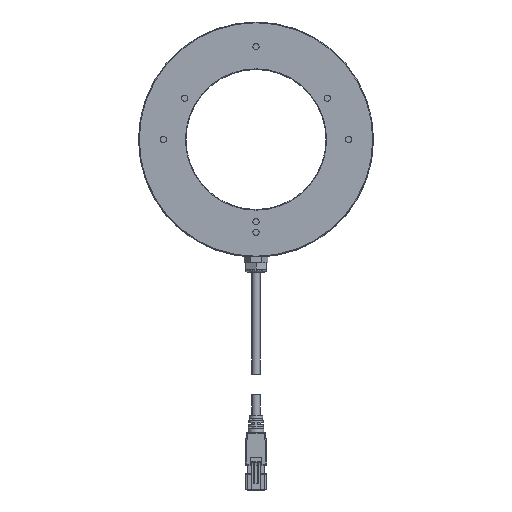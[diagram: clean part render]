
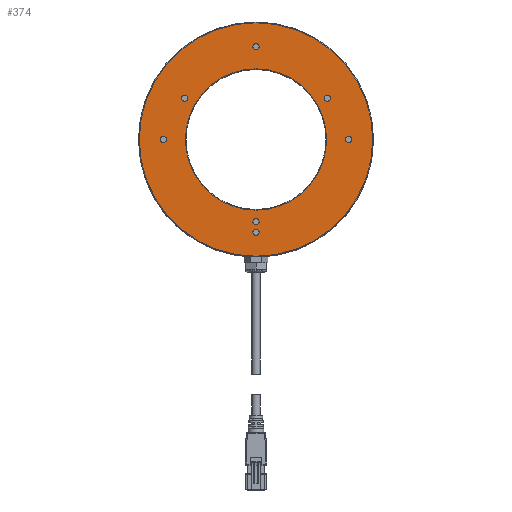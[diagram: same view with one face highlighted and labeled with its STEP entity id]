
A CAD part, top view. The second image highlights one B-rep face of the part: STEP entity #374.
In plain terms, the highlighted planar face has unit normal (0, 0, 1).
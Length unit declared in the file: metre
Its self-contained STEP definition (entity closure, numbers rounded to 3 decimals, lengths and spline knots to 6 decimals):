
#374=ADVANCED_FACE('14:558',(#1067,#1068,#1069,#1070,#1071,#1072,#1073,#1074,#1075),#1076,.T.);
#1067=FACE_BOUND('',#1987,.T.);
#1068=FACE_BOUND('',#1988,.T.);
#1069=FACE_BOUND('',#1989,.T.);
#1070=FACE_BOUND('',#1990,.T.);
#1071=FACE_BOUND('',#1991,.T.);
#1072=FACE_BOUND('',#1992,.T.);
#1073=FACE_BOUND('',#1993,.T.);
#1074=FACE_OUTER_BOUND('',#1994,.T.);
#1075=FACE_BOUND('',#1995,.T.);
#1076=PLANE('',#1996);
#1987=EDGE_LOOP('',(#5369,#5370));
#1988=EDGE_LOOP('',(#5371,#5372));
#1989=EDGE_LOOP('',(#5373,#5374));
#1990=EDGE_LOOP('',(#5375,#5376));
#1991=EDGE_LOOP('',(#5377,#5378));
#1992=EDGE_LOOP('',(#5379,#5380));
#1993=EDGE_LOOP('',(#5381,#5382));
#1994=EDGE_LOOP('',(#5383,#5384));
#1995=EDGE_LOOP('',(#5385,#5386));
#1996=AXIS2_PLACEMENT_3D('',#5387,#5388,#5389);
#5369=ORIENTED_EDGE('',*,*,#7302,.T.);
#5370=ORIENTED_EDGE('',*,*,#7196,.T.);
#5371=ORIENTED_EDGE('',*,*,#7303,.T.);
#5372=ORIENTED_EDGE('',*,*,#7192,.T.);
#5373=ORIENTED_EDGE('',*,*,#7304,.T.);
#5374=ORIENTED_EDGE('',*,*,#7188,.T.);
#5375=ORIENTED_EDGE('',*,*,#7305,.T.);
#5376=ORIENTED_EDGE('',*,*,#7184,.T.);
#5377=ORIENTED_EDGE('',*,*,#7306,.T.);
#5378=ORIENTED_EDGE('',*,*,#7180,.T.);
#5379=ORIENTED_EDGE('',*,*,#7307,.T.);
#5380=ORIENTED_EDGE('',*,*,#7176,.T.);
#5381=ORIENTED_EDGE('',*,*,#7308,.T.);
#5382=ORIENTED_EDGE('',*,*,#7172,.T.);
#5383=ORIENTED_EDGE('',*,*,#7094,.F.);
#5384=ORIENTED_EDGE('',*,*,#7398,.F.);
#5385=ORIENTED_EDGE('',*,*,#7157,.F.);
#5386=ORIENTED_EDGE('',*,*,#7321,.F.);
#5387=CARTESIAN_POINT('',(0.0,0.0,0.021));
#5388=DIRECTION('',(0.0,0.0,1.0));
#5389=DIRECTION('',(1.0,0.0,0.0));
#7094=EDGE_CURVE('14:1191',#8477,#8473,#8479,.T.);
#7157=EDGE_CURVE('14:927',#8591,#8588,#8593,.T.);
#7172=EDGE_CURVE('14:888',#8616,#8620,#8622,.T.);
#7176=EDGE_CURVE('14:885',#8624,#8628,#8630,.T.);
#7180=EDGE_CURVE('14:882',#8632,#8636,#8638,.T.);
#7184=EDGE_CURVE('14:879',#8640,#8644,#8646,.T.);
#7188=EDGE_CURVE('14:876',#8648,#8652,#8654,.T.);
#7192=EDGE_CURVE('14:873',#8656,#8660,#8662,.T.);
#7196=EDGE_CURVE('14:870',#8664,#8668,#8670,.T.);
#7302=EDGE_CURVE('14:870',#8668,#8664,#8834,.T.);
#7303=EDGE_CURVE('14:873',#8660,#8656,#8835,.T.);
#7304=EDGE_CURVE('14:876',#8652,#8648,#8836,.T.);
#7305=EDGE_CURVE('14:879',#8644,#8640,#8837,.T.);
#7306=EDGE_CURVE('14:882',#8636,#8632,#8838,.T.);
#7307=EDGE_CURVE('14:885',#8628,#8624,#8839,.T.);
#7308=EDGE_CURVE('14:888',#8620,#8616,#8840,.T.);
#7321=EDGE_CURVE('14:927',#8588,#8591,#8858,.T.);
#7398=EDGE_CURVE('14:1191',#8473,#8477,#8969,.T.);
#8473=VERTEX_POINT('',#10421);
#8477=VERTEX_POINT('',#10426);
#8479=CIRCLE('',#10429,0.0567);
#8588=VERTEX_POINT('',#10581);
#8591=VERTEX_POINT('',#10585);
#8593=CIRCLE('',#10588,0.0343);
#8616=VERTEX_POINT('',#10624);
#8620=VERTEX_POINT('',#10629);
#8622=CIRCLE('',#10632,0.0015);
#8624=VERTEX_POINT('',#10634);
#8628=VERTEX_POINT('',#10639);
#8630=CIRCLE('',#10642,0.0015);
#8632=VERTEX_POINT('',#10644);
#8636=VERTEX_POINT('',#10649);
#8638=CIRCLE('',#10652,0.0015);
#8640=VERTEX_POINT('',#10654);
#8644=VERTEX_POINT('',#10659);
#8646=CIRCLE('',#10662,0.0015);
#8648=VERTEX_POINT('',#10664);
#8652=VERTEX_POINT('',#10669);
#8654=CIRCLE('',#10672,0.0015);
#8656=VERTEX_POINT('',#10674);
#8660=VERTEX_POINT('',#10679);
#8662=CIRCLE('',#10682,0.0015);
#8664=VERTEX_POINT('',#10684);
#8668=VERTEX_POINT('',#10689);
#8670=CIRCLE('',#10692,0.0015);
#8834=CIRCLE('',#10930,0.0015);
#8835=CIRCLE('',#10931,0.0015);
#8836=CIRCLE('',#10932,0.0015);
#8837=CIRCLE('',#10933,0.0015);
#8838=CIRCLE('',#10934,0.0015);
#8839=CIRCLE('',#10935,0.0015);
#8840=CIRCLE('',#10936,0.0015);
#8858=CIRCLE('',#10985,0.0343);
#8969=CIRCLE('',#11161,0.0567);
#10421=CARTESIAN_POINT('',(-0.0567,0.,0.021));
#10426=CARTESIAN_POINT('',(0.0567,0.,0.021));
#10429=AXIS2_PLACEMENT_3D('',#13098,#13099,#13100);
#10581=CARTESIAN_POINT('',(-0.0343,0.,0.021));
#10585=CARTESIAN_POINT('',(0.0343,0.,0.021));
#10588=AXIS2_PLACEMENT_3D('',#13221,#13222,#13223);
#10624=CARTESIAN_POINT('',(0.0015,-0.04,0.021));
#10629=CARTESIAN_POINT('',(-0.0015,-0.04,0.021));
#10632=AXIS2_PLACEMENT_3D('',#13251,#13252,#13253);
#10634=CARTESIAN_POINT('',(0.0015,-0.045,0.021));
#10639=CARTESIAN_POINT('',(-0.0015,-0.045,0.021));
#10642=AXIS2_PLACEMENT_3D('',#13259,#13260,#13261);
#10644=CARTESIAN_POINT('',(0.0465,0.,0.021));
#10649=CARTESIAN_POINT('',(0.0435,0.,0.021));
#10652=AXIS2_PLACEMENT_3D('',#13267,#13268,#13269);
#10654=CARTESIAN_POINT('',(-0.0435,0.,0.021));
#10659=CARTESIAN_POINT('',(-0.0465,0.,0.021));
#10662=AXIS2_PLACEMENT_3D('',#13275,#13276,#13277);
#10664=CARTESIAN_POINT('',(0.0015,0.045,0.021));
#10669=CARTESIAN_POINT('',(-0.0015,0.045,0.021));
#10672=AXIS2_PLACEMENT_3D('',#13283,#13284,#13285);
#10674=CARTESIAN_POINT('',(0.033891,0.021299,0.021));
#10679=CARTESIAN_POINT('',(0.035391,0.018701,0.021));
#10682=AXIS2_PLACEMENT_3D('',#13291,#13292,#13293);
#10684=CARTESIAN_POINT('',(-0.035391,0.018701,0.021));
#10689=CARTESIAN_POINT('',(-0.033891,0.021299,0.021));
#10692=AXIS2_PLACEMENT_3D('',#13299,#13300,#13301);
#10930=AXIS2_PLACEMENT_3D('',#13469,#13470,#13471);
#10931=AXIS2_PLACEMENT_3D('',#13472,#13473,#13474);
#10932=AXIS2_PLACEMENT_3D('',#13475,#13476,#13477);
#10933=AXIS2_PLACEMENT_3D('',#13478,#13479,#13480);
#10934=AXIS2_PLACEMENT_3D('',#13481,#13482,#13483);
#10935=AXIS2_PLACEMENT_3D('',#13484,#13485,#13486);
#10936=AXIS2_PLACEMENT_3D('',#13487,#13488,#13489);
#10985=AXIS2_PLACEMENT_3D('',#13512,#13513,#13514);
#11161=AXIS2_PLACEMENT_3D('',#13637,#13638,#13639);
#13098=CARTESIAN_POINT('',(0.0,0.0,0.021));
#13099=DIRECTION('',(-0.0,0.0,-1.0));
#13100=DIRECTION('',(-1.0,0.0,0.0));
#13221=CARTESIAN_POINT('',(0.0,0.0,0.021));
#13222=DIRECTION('',(0.0,0.0,1.0));
#13223=DIRECTION('',(-1.0,0.0,0.0));
#13251=CARTESIAN_POINT('',(0.,-0.04,0.021));
#13252=DIRECTION('',(0.0,0.0,-1.0));
#13253=DIRECTION('',(1.0,0.0,0.0));
#13259=CARTESIAN_POINT('',(0.,-0.045,0.021));
#13260=DIRECTION('',(0.0,0.0,-1.0));
#13261=DIRECTION('',(1.0,0.0,0.0));
#13267=CARTESIAN_POINT('',(0.045,0.0,0.021));
#13268=DIRECTION('',(0.0,0.0,-1.0));
#13269=DIRECTION('',(1.0,0.0,0.0));
#13275=CARTESIAN_POINT('',(-0.045,0.,0.021));
#13276=DIRECTION('',(0.0,0.0,-1.0));
#13277=DIRECTION('',(1.0,0.0,0.0));
#13283=CARTESIAN_POINT('',(0.,0.045,0.021));
#13284=DIRECTION('',(0.0,0.0,-1.0));
#13285=DIRECTION('',(1.0,0.0,0.0));
#13291=CARTESIAN_POINT('',(0.034641,0.02,0.021));
#13292=DIRECTION('',(-0.0,0.0,-1.0));
#13293=DIRECTION('',(-0.5,0.866,0.0));
#13299=CARTESIAN_POINT('',(-0.034641,0.02,0.021));
#13300=DIRECTION('',(-0.0,0.0,-1.0));
#13301=DIRECTION('',(-0.5,-0.866,0.0));
#13469=CARTESIAN_POINT('',(-0.034641,0.02,0.021));
#13470=DIRECTION('',(-0.0,0.0,-1.0));
#13471=DIRECTION('',(-0.5,-0.866,0.0));
#13472=CARTESIAN_POINT('',(0.034641,0.02,0.021));
#13473=DIRECTION('',(-0.0,0.0,-1.0));
#13474=DIRECTION('',(-0.5,0.866,0.0));
#13475=CARTESIAN_POINT('',(0.,0.045,0.021));
#13476=DIRECTION('',(0.0,0.0,-1.0));
#13477=DIRECTION('',(1.0,0.0,0.0));
#13478=CARTESIAN_POINT('',(-0.045,0.,0.021));
#13479=DIRECTION('',(0.0,0.0,-1.0));
#13480=DIRECTION('',(1.0,0.0,0.0));
#13481=CARTESIAN_POINT('',(0.045,0.0,0.021));
#13482=DIRECTION('',(0.0,0.0,-1.0));
#13483=DIRECTION('',(1.0,0.0,0.0));
#13484=CARTESIAN_POINT('',(0.,-0.045,0.021));
#13485=DIRECTION('',(0.0,0.0,-1.0));
#13486=DIRECTION('',(1.0,0.0,0.0));
#13487=CARTESIAN_POINT('',(0.,-0.04,0.021));
#13488=DIRECTION('',(0.0,0.0,-1.0));
#13489=DIRECTION('',(1.0,0.0,0.0));
#13512=CARTESIAN_POINT('',(0.0,0.0,0.021));
#13513=DIRECTION('',(0.0,0.0,1.0));
#13514=DIRECTION('',(-1.0,0.0,0.0));
#13637=CARTESIAN_POINT('',(0.0,0.0,0.021));
#13638=DIRECTION('',(-0.0,0.0,-1.0));
#13639=DIRECTION('',(-1.0,0.0,0.0));
